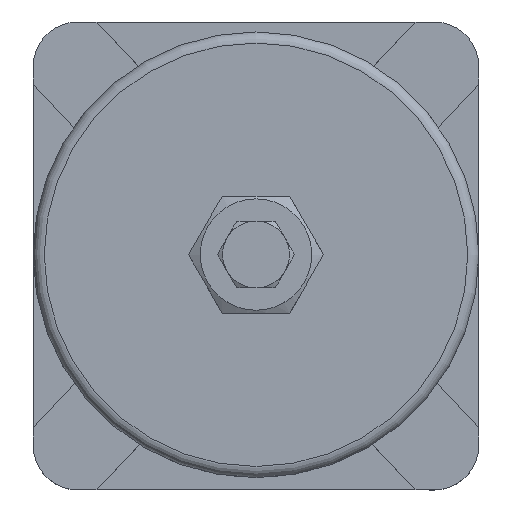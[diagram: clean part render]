
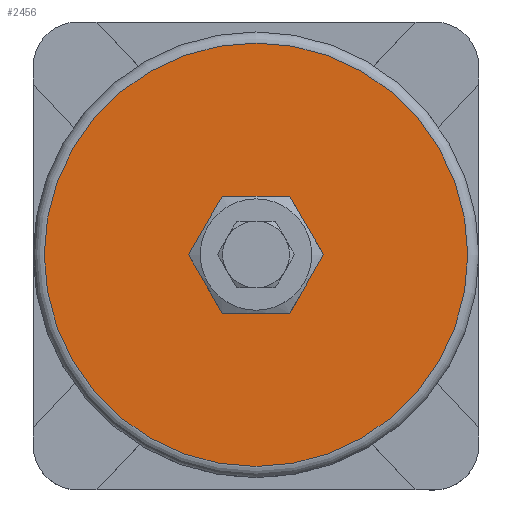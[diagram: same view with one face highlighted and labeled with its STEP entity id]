
A CAD part, top view. The second image highlights one B-rep face of the part: STEP entity #2456.
In plain terms, the highlighted planar face has unit normal (0, 0, 1).
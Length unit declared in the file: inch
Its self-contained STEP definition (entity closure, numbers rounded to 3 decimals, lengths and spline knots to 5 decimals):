
#123=FACE_BOUND('',#449,.T.);
#172=CIRCLE('',#2631,2.3757);
#173=CIRCLE('',#2633,0.38281);
#292=FACE_OUTER_BOUND('',#448,.T.);
#448=EDGE_LOOP('',(#1640));
#449=EDGE_LOOP('',(#1641));
#999=VERTEX_POINT('',#3558);
#1000=VERTEX_POINT('',#3561);
#1248=EDGE_CURVE('',#999,#999,#172,.T.);
#1249=EDGE_CURVE('',#1000,#1000,#173,.T.);
#1640=ORIENTED_EDGE('',*,*,#1248,.T.);
#1641=ORIENTED_EDGE('',*,*,#1249,.F.);
#2208=PLANE('',#2632);
#2456=ADVANCED_FACE('',(#292,#123),#2208,.T.);
#2631=AXIS2_PLACEMENT_3D('',#3559,#2925,#2926);
#2632=AXIS2_PLACEMENT_3D('',#3560,#2927,#2928);
#2633=AXIS2_PLACEMENT_3D('',#3562,#2929,#2930);
#2925=DIRECTION('center_axis',(0.,0.,
1.));
#2926=DIRECTION('ref_axis',(1.,0.,0.));
#2927=DIRECTION('center_axis',(0.,0.,
1.));
#2928=DIRECTION('ref_axis',(1.,0.,0.));
#2929=DIRECTION('center_axis',(0.,0.,
1.));
#2930=DIRECTION('ref_axis',(1.,0.,0.));
#3558=CARTESIAN_POINT('',(2.3757,0.,8.1875));
#3559=CARTESIAN_POINT('Origin',(0.,0.,
8.1875));
#3560=CARTESIAN_POINT('Origin',(1.37925,0.,
8.1875));
#3561=CARTESIAN_POINT('',(0.38281,0.,8.1875));
#3562=CARTESIAN_POINT('Origin',(0.,0.,
8.1875));
